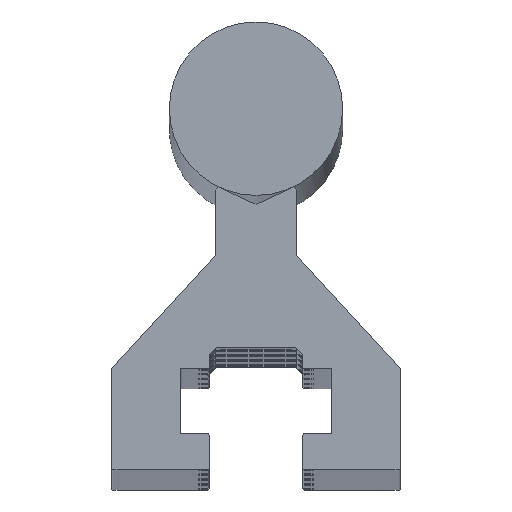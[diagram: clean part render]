
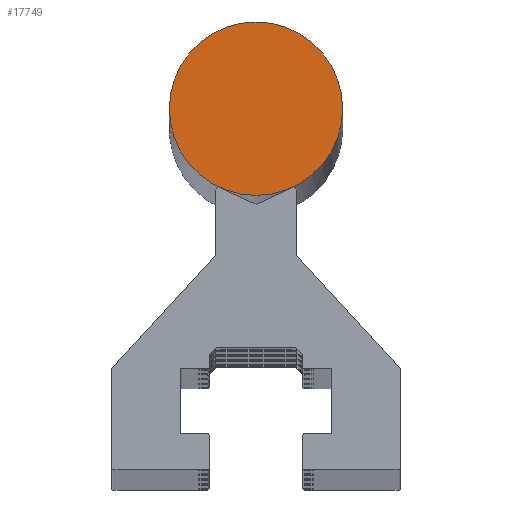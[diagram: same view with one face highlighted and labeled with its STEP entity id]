
A CAD part, top view. The second image highlights one B-rep face of the part: STEP entity #17749.
In plain terms, the highlighted planar face has unit normal (0, 0, 1).
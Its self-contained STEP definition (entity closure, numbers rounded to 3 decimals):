
#275 = DIRECTION ( 'NONE',  ( 1., 0., 0. ) ) ;
#279 = DIRECTION ( 'NONE',  ( 0., 0., 1. ) ) ;
#299 = CARTESIAN_POINT ( 'NONE',  ( 0., 25., 1. ) ) ;
#319 = PLANE ( 'NONE',  #6665 ) ;
#603 = AXIS2_PLACEMENT_3D ( 'NONE', #14336, #14275, #13877 ) ;
#5945 = VERTEX_POINT ( 'NONE', #13140 ) ;
#6665 = AXIS2_PLACEMENT_3D ( 'NONE', #299, #279, #275 ) ;
#11054 = ORIENTED_EDGE ( 'NONE', *, *, #12035, .T. ) ;
#12035 = EDGE_CURVE ( 'NONE', #5945, #5945, #14139, .T. ) ;
#13140 = CARTESIAN_POINT ( 'NONE',  ( 6., 25., 1. ) ) ;
#13877 = DIRECTION ( 'NONE',  ( 1., 0., 0. ) ) ;
#14139 = CIRCLE ( 'NONE', #603, 6. ) ;
#14275 = DIRECTION ( 'NONE',  ( 0., 0., 1. ) ) ;
#14336 = CARTESIAN_POINT ( 'NONE',  ( 0., 25., 1. ) ) ;
#15197 = FACE_OUTER_BOUND ( 'NONE', #18085, .T. ) ;
#17749 = ADVANCED_FACE ( 'NONE', ( #15197 ), #319, .T. ) ;
#18085 = EDGE_LOOP ( 'NONE', ( #11054 ) ) ;
